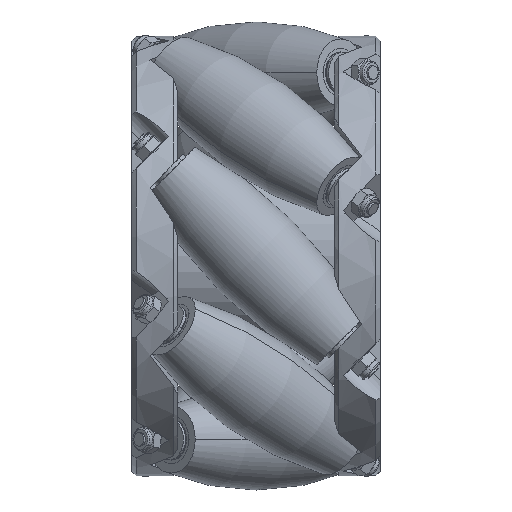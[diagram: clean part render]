
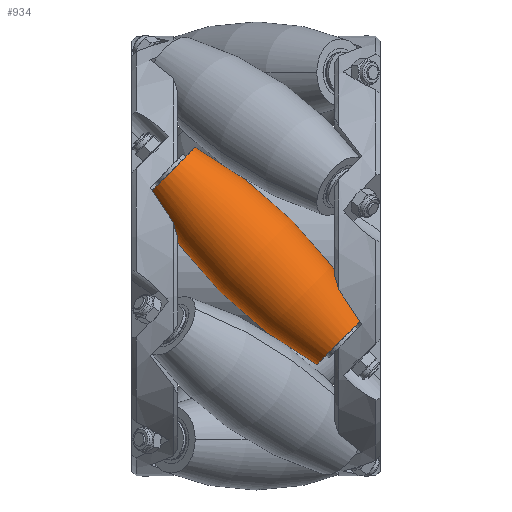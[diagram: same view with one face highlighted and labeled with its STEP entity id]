
A CAD part, front view. The second image highlights one B-rep face of the part: STEP entity #934.
In plain terms, the highlighted toroidal (fillet/blend) face has major radius 82.998 mm and minor radius 94 mm.
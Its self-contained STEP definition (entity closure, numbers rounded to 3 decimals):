
#618 = ORIENTED_EDGE ( 'NONE', *, *, #6641, .T. ) ;
#724 = FACE_OUTER_BOUND ( 'NONE', #1514, .T. ) ;
#841 = DIRECTION ( 'NONE',  ( 0.707, -0.707, 0. ) ) ;
#934 = ADVANCED_FACE ( 'NONE', ( #724 ), #7706, .T. ) ;
#1472 = ORIENTED_EDGE ( 'NONE', *, *, #6207, .F. ) ;
#1514 = EDGE_LOOP ( 'NONE', ( #1472, #4294, #618, #4305 ) ) ;
#1548 = CIRCLE ( 'NONE', #6343, 7.335 ) ;
#1830 = AXIS2_PLACEMENT_3D ( 'NONE', #4233, #8320, #9062 ) ;
#2363 = DIRECTION ( 'NONE',  ( 0., 0., 1. ) ) ;
#2577 = VERTEX_POINT ( 'NONE', #7609 ) ;
#2585 = AXIS2_PLACEMENT_3D ( 'NONE', #4725, #5384, #8727 ) ;
#3255 = CARTESIAN_POINT ( 'NONE',  ( 58.688, -58.688, -39.8 ) ) ;
#3875 = DIRECTION ( 'NONE',  ( -0.707, -0.707, 0. ) ) ;
#4233 = CARTESIAN_POINT ( 'NONE',  ( 0., 0., -39.8 ) ) ;
#4294 = ORIENTED_EDGE ( 'NONE', *, *, #7036, .T. ) ;
#4305 = ORIENTED_EDGE ( 'NONE', *, *, #4873, .F. ) ;
#4331 = VERTEX_POINT ( 'NONE', #4746 ) ;
#4520 = DIRECTION ( 'NONE',  ( 0.707, -0.707, 0. ) ) ;
#4725 = CARTESIAN_POINT ( 'NONE',  ( -58.688, 58.688, -39.8 ) ) ;
#4746 = CARTESIAN_POINT ( 'NONE',  ( 13.198, 23.571, -39.8 ) ) ;
#4846 = CIRCLE ( 'NONE', #2585, 94. ) ;
#4873 = EDGE_CURVE ( 'NONE', #9548, #2577, #8516, .T. ) ;
#4876 = DIRECTION ( 'NONE',  ( 0., -1., 0. ) ) ;
#5035 = CIRCLE ( 'NONE', #6072, 94. ) ;
#5345 = DIRECTION ( 'NONE',  ( -0.707, -0.707, 0. ) ) ;
#5384 = DIRECTION ( 'NONE',  ( 0., 0., -1. ) ) ;
#6052 = VERTEX_POINT ( 'NONE', #6151 ) ;
#6072 = AXIS2_PLACEMENT_3D ( 'NONE', #3255, #2363, #4876 ) ;
#6151 = CARTESIAN_POINT ( 'NONE',  ( 23.571, 13.198, -39.8 ) ) ;
#6207 = EDGE_CURVE ( 'NONE', #4331, #9548, #5035, .T. ) ;
#6343 = AXIS2_PLACEMENT_3D ( 'NONE', #10054, #5345, #4520 ) ;
#6641 = EDGE_CURVE ( 'NONE', #6052, #2577, #4846, .T. ) ;
#7036 = EDGE_CURVE ( 'NONE', #4331, #6052, #1548, .T. ) ;
#7609 = CARTESIAN_POINT ( 'NONE',  ( -13.198, -23.571, -39.8 ) ) ;
#7706 = TOROIDAL_SURFACE ( 'NONE', #1830, -82.998, 94. ) ;
#7839 = CARTESIAN_POINT ( 'NONE',  ( -18.385, -18.385, -39.8 ) ) ;
#7992 = CARTESIAN_POINT ( 'NONE',  ( -23.571, -13.198, -39.8 ) ) ;
#8320 = DIRECTION ( 'NONE',  ( -0.707, -0.707, 0. ) ) ;
#8516 = CIRCLE ( 'NONE', #9349, 7.335 ) ;
#8727 = DIRECTION ( 'NONE',  ( -1., 0., 0. ) ) ;
#9062 = DIRECTION ( 'NONE',  ( 0.707, -0.707, 0. ) ) ;
#9349 = AXIS2_PLACEMENT_3D ( 'NONE', #7839, #3875, #841 ) ;
#9548 = VERTEX_POINT ( 'NONE', #7992 ) ;
#10054 = CARTESIAN_POINT ( 'NONE',  ( 18.385, 18.385, -39.8 ) ) ;
